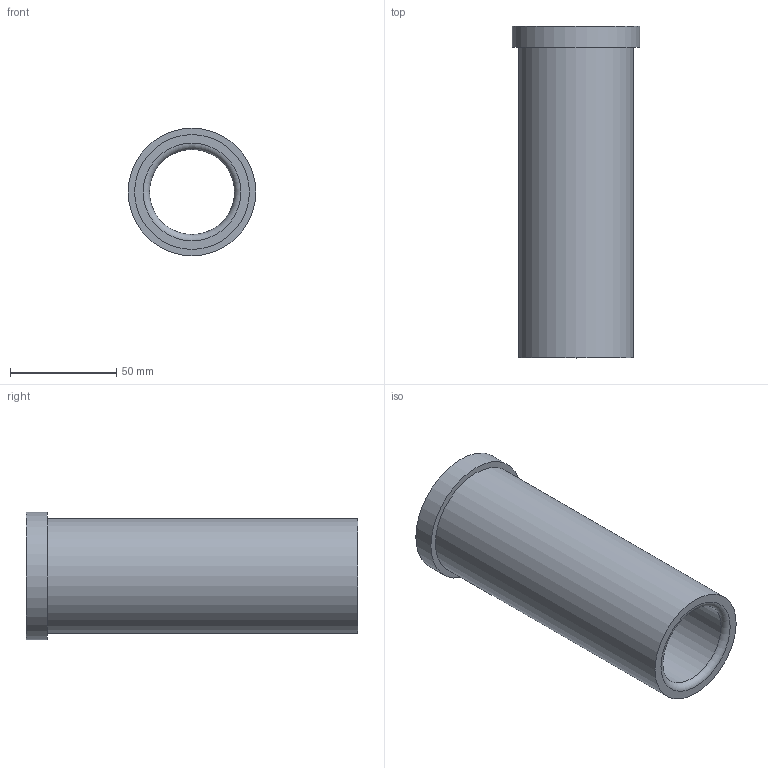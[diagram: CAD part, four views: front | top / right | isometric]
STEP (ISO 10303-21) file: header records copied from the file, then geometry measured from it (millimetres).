
FILE_DESCRIPTION(/* description */ ('STEP AP214'),/* implementation_level */ '2;1');
FILE_NAME(/* name */ '03_12_17864',/* time_stamp */ '2023-06-15T11:35:44+02:00',/* author */ ('License CC BY-ND 4.0'),/* organization */ ('CADENAS'),/* preprocessor_version */ 'ST-DEVELOPER v19.3',/* originating_system */ 'PARTsolutions',/* authorisation */ ' ');
FILE_SCHEMA (('AUTOMOTIVE_DESIGN {1 0 10303 214 3 1 1}'));
Length unit declared in the file: millimetre
Products named in the file (1): VA_Bushing_17864
Bounding box: 60 x 156 x 60 mm (x, y, z)
Volume: 164920.9 mm3; surface area: 49139.2 mm2
Topology: 1 solids, 1 shells, 10 faces, 16 edges, 10 vertices
Faces by surface type: cylinder 4, plane 4, torus 2
Full cylindrical faces by diameter (mm): 40 x1, 40.6 x1, 54 x1, 60 x1
Entity records: 302 total; most frequent: DIRECTION 42, CARTESIAN_POINT 31, AXIS2_PLACEMENT_3D 21, ORIENTED_EDGE 20, EDGE_LOOP 20, FACE_BOUND 20, EDGE_CURVE 10, VERTEX_POINT 10
